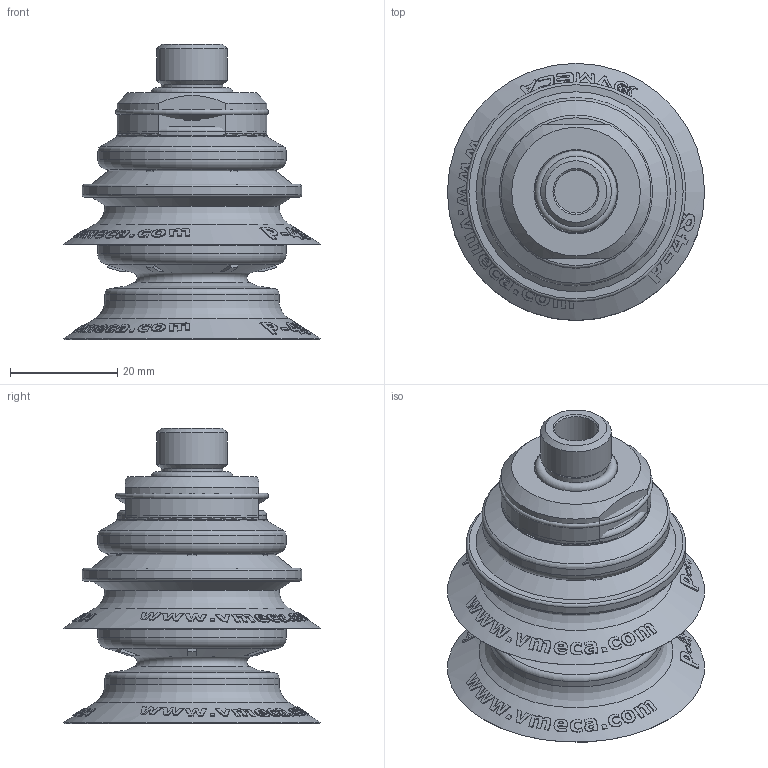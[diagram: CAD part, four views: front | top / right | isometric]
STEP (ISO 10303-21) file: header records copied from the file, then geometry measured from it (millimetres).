
FILE_DESCRIPTION( ( 'Unknown' ), '1' );
FILE_NAME( 'C:/Documents and Settings/Administrator/官帕 拳搁/Magic Cup (Dim)/B1.5/P TYPE/B1.5-40/B1.5-40-P48-N6-D-F2-14M.stp', 'Unknown', ( 'Unknown' ), ( 'Unknown' ), 'XStep 1.0', 'Unknown', ' ' );
FILE_SCHEMA( ( 'automotive_design' ) );
Length unit declared in the file: millimetre
Products named in the file (8): Assem1; Assem2; Assem3; B1.5-40(DIM); 40-14M(DIM); 14M-Oring(DIM); P48; 赤40 STOPPER 
Bounding box: 48 x 48 x 55.09 mm (x, y, z)
Volume: 64377.1 mm3; surface area: 60506.3 mm2
Topology: 15 solids, 15 shells, 2589 faces, 7029 edges, 4635 vertices
Faces by surface type: plane 747, bspline 696, cylinder 450, cone 420, torus 276
Full cylindrical faces by diameter (mm): 8 x3, 11.5 x3, 13.2 x3, 15.3 x3, 16 x3, 21 x6, 21.5 x6, 22 x3, 24 x6, 24.8 x3, 26 x3, 27.8 x6, 28 x3, 32.5 x3, 34.2 x3, 35.2 x3, 41 x3
Entity records: 36085 total; most frequent: CARTESIAN_POINT 15611, ORIENTED_EDGE 4500, DIRECTION 2681, EDGE_CURVE 2250, VERTEX_POINT 1534, B_SPLINE_CURVE_WITH_KNOTS 1305, AXIS2_PLACEMENT_3D 1097, EDGE_LOOP 1012
